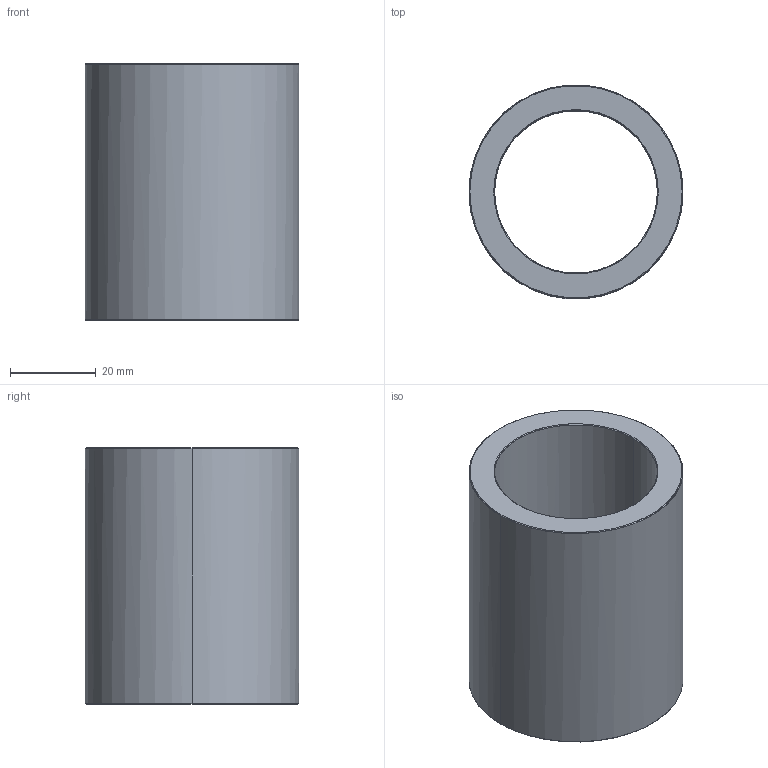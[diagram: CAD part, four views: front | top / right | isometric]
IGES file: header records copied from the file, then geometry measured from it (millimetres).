
Start section: Write IGES format                                    datakit 2008 (c)
Global section: file name: Unknown; native system: DATAKIT Converter; preprocessor: Unknown; author: Unknown; organization: Unknown; date: 950613.180003; units: millimetre
Bounding box: 50 x 49.88 x 60 mm (x, y, z)
Surface area: 18181.6 mm2 (no closed solid volume)
Topology: 0 solids, 0 shells, 14 faces, 56 edges, 56 vertices
Faces by surface type: revolution 12, bspline 2
